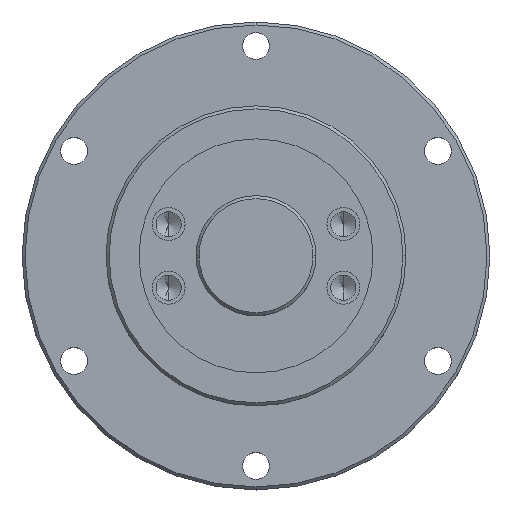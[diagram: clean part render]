
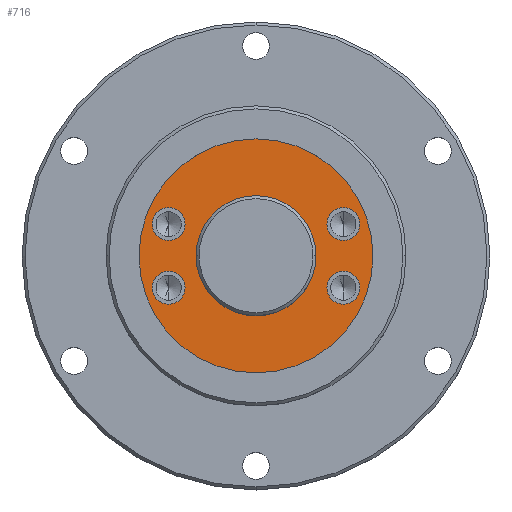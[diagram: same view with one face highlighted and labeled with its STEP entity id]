
A CAD part, top view. The second image highlights one B-rep face of the part: STEP entity #716.
In plain terms, the highlighted planar face has unit normal (0, 0, 1).
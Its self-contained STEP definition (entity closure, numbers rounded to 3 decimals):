
#10 = EDGE_CURVE ( 'NONE', #960, #2023, #419, .T. ) ;
#111 = AXIS2_PLACEMENT_3D ( 'NONE', #4348, #1868, #4781 ) ;
#159 = CARTESIAN_POINT ( 'NONE',  ( 0., 19.5, 0. ) ) ;
#166 = DIRECTION ( 'NONE',  ( 0., 0., 1. ) ) ;
#186 = VERTEX_POINT ( 'NONE', #3302 ) ;
#251 = ORIENTED_EDGE ( 'NONE', *, *, #4518, .F. ) ;
#254 = EDGE_LOOP ( 'NONE', ( #251, #1656 ) ) ;
#316 = VERTEX_POINT ( 'NONE', #1079 ) ;
#396 = DIRECTION ( 'NONE',  ( 1., 0., 0. ) ) ;
#419 = CIRCLE ( 'NONE', #1128, 2.75 ) ;
#576 = CARTESIAN_POINT ( 'NONE',  ( -14.565, 5.301, 0. ) ) ;
#716 = ADVANCED_FACE ( 'NONE', ( #3183, #3244, #3238, #3180, #3129, #3429 ), #5238, .F. ) ;
#737 = CARTESIAN_POINT ( 'NONE',  ( 14.565, 5.301, 0. ) ) ;
#941 = CIRCLE ( 'NONE', #1281, 2.75 ) ;
#960 = VERTEX_POINT ( 'NONE', #4312 ) ;
#974 = CARTESIAN_POINT ( 'NONE',  ( 0., 0., 0. ) ) ;
#1023 = DIRECTION ( 'NONE',  ( -1., 0., 0. ) ) ;
#1077 = CARTESIAN_POINT ( 'NONE',  ( 14.565, -5.301, 0. ) ) ;
#1079 = CARTESIAN_POINT ( 'NONE',  ( 0., 19.5, 0. ) ) ;
#1087 = DIRECTION ( 'NONE',  ( 0., 0., -1. ) ) ;
#1128 = AXIS2_PLACEMENT_3D ( 'NONE', #4037, #1560, #4469 ) ;
#1154 = VERTEX_POINT ( 'NONE', #1991 ) ;
#1190 = DIRECTION ( 'NONE',  ( 1., 0., 0. ) ) ;
#1237 = EDGE_LOOP ( 'NONE', ( #4699, #5436 ) ) ;
#1266 = DIRECTION ( 'NONE',  ( 0., 0., 1. ) ) ;
#1281 = AXIS2_PLACEMENT_3D ( 'NONE', #3926, #1441, #4355 ) ;
#1407 = CIRCLE ( 'NONE', #2991, 2.75 ) ;
#1409 = DIRECTION ( 'NONE',  ( 0., -1., 0. ) ) ;
#1441 = DIRECTION ( 'NONE',  ( 0., 0., 1. ) ) ;
#1504 = DIRECTION ( 'NONE',  ( -1., 0., 0. ) ) ;
#1538 = CIRCLE ( 'NONE', #111, 10. ) ;
#1543 = CARTESIAN_POINT ( 'NONE',  ( 14.565, 5.301, 0. ) ) ;
#1560 = DIRECTION ( 'NONE',  ( 0., 0., 1. ) ) ;
#1591 = AXIS2_PLACEMENT_3D ( 'NONE', #4729, #2227, #5125 ) ;
#1656 = ORIENTED_EDGE ( 'NONE', *, *, #4973, .F. ) ;
#1867 = ORIENTED_EDGE ( 'NONE', *, *, #2265, .T. ) ;
#1868 = DIRECTION ( 'NONE',  ( 0., 0., 1. ) ) ;
#1991 = CARTESIAN_POINT ( 'NONE',  ( 11.815, 5.301, 0. ) ) ;
#2023 = VERTEX_POINT ( 'NONE', #4869 ) ;
#2124 = CIRCLE ( 'NONE', #4487, 2.75 ) ;
#2180 = CARTESIAN_POINT ( 'NONE',  ( 14.565, -5.301, 0. ) ) ;
#2188 = ORIENTED_EDGE ( 'NONE', *, *, #4232, .T. ) ;
#2227 = DIRECTION ( 'NONE',  ( 0., 0., 1. ) ) ;
#2265 = EDGE_CURVE ( 'NONE', #3033, #316, #2425, .T. ) ;
#2342 = EDGE_LOOP ( 'NONE', ( #4040, #4229 ) ) ;
#2366 = EDGE_LOOP ( 'NONE', ( #4488, #4564 ) ) ;
#2425 = CIRCLE ( 'NONE', #2835, 19.5 ) ;
#2430 = CARTESIAN_POINT ( 'NONE',  ( 17.315, -5.301, 0. ) ) ;
#2492 = EDGE_LOOP ( 'NONE', ( #4253, #4367 ) ) ;
#2513 = CARTESIAN_POINT ( 'NONE',  ( -10., 0., 0. ) ) ;
#2521 = CIRCLE ( 'NONE', #3869, 2.75 ) ;
#2600 = DIRECTION ( 'NONE',  ( -1., 0., 0. ) ) ;
#2744 = VERTEX_POINT ( 'NONE', #2513 ) ;
#2752 = CARTESIAN_POINT ( 'NONE',  ( -14.565, -5.301, 0. ) ) ;
#2835 = AXIS2_PLACEMENT_3D ( 'NONE', #974, #3890, #1409 ) ;
#2838 = CARTESIAN_POINT ( 'NONE',  ( 11.815, -5.301, 0. ) ) ;
#2863 = CARTESIAN_POINT ( 'NONE',  ( 10., 0., 0. ) ) ;
#2929 = CARTESIAN_POINT ( 'NONE',  ( 0., -19.5, 0. ) ) ;
#2991 = AXIS2_PLACEMENT_3D ( 'NONE', #2752, #166, #3167 ) ;
#3033 = VERTEX_POINT ( 'NONE', #2929 ) ;
#3129 = FACE_BOUND ( 'NONE', #254, .T. ) ;
#3130 = VERTEX_POINT ( 'NONE', #3819 ) ;
#3162 = CIRCLE ( 'NONE', #3251, 2.75 ) ;
#3167 = DIRECTION ( 'NONE',  ( 1., 0., 0. ) ) ;
#3180 = FACE_BOUND ( 'NONE', #1237, .T. ) ;
#3183 = FACE_BOUND ( 'NONE', #2342, .T. ) ;
#3204 = AXIS2_PLACEMENT_3D ( 'NONE', #159, #1087, #3999 ) ;
#3233 = EDGE_CURVE ( 'NONE', #4168, #3130, #941, .T. ) ;
#3238 = FACE_BOUND ( 'NONE', #2366, .T. ) ;
#3244 = FACE_BOUND ( 'NONE', #2492, .T. ) ;
#3251 = AXIS2_PLACEMENT_3D ( 'NONE', #2180, #5077, #2600 ) ;
#3302 = CARTESIAN_POINT ( 'NONE',  ( 17.315, 5.301, 0. ) ) ;
#3343 = CIRCLE ( 'NONE', #4479, 2.75 ) ;
#3429 = FACE_OUTER_BOUND ( 'NONE', #4309, .T. ) ;
#3512 = DIRECTION ( 'NONE',  ( 0., 0., 1. ) ) ;
#3626 = VERTEX_POINT ( 'NONE', #2863 ) ;
#3660 = DIRECTION ( 'NONE',  ( 0., 0., 1. ) ) ;
#3683 = AXIS2_PLACEMENT_3D ( 'NONE', #3750, #1266, #4181 ) ;
#3750 = CARTESIAN_POINT ( 'NONE',  ( 0., 0., 0. ) ) ;
#3819 = CARTESIAN_POINT ( 'NONE',  ( -11.815, 5.301, 0. ) ) ;
#3869 = AXIS2_PLACEMENT_3D ( 'NONE', #576, #3512, #1023 ) ;
#3890 = DIRECTION ( 'NONE',  ( 0., 0., 1. ) ) ;
#3926 = CARTESIAN_POINT ( 'NONE',  ( -14.565, 5.301, 0. ) ) ;
#3985 = VERTEX_POINT ( 'NONE', #2838 ) ;
#3989 = DIRECTION ( 'NONE',  ( 0., 0., 1. ) ) ;
#3999 = DIRECTION ( 'NONE',  ( 0., 1., 0. ) ) ;
#4000 = CIRCLE ( 'NONE', #1591, 19.5 ) ;
#4037 = CARTESIAN_POINT ( 'NONE',  ( -14.565, -5.301, 0. ) ) ;
#4040 = ORIENTED_EDGE ( 'NONE', *, *, #4343, .F. ) ;
#4168 = VERTEX_POINT ( 'NONE', #5060 ) ;
#4181 = DIRECTION ( 'NONE',  ( 1., 0., 0. ) ) ;
#4229 = ORIENTED_EDGE ( 'NONE', *, *, #4546, .F. ) ;
#4232 = EDGE_CURVE ( 'NONE', #316, #3033, #4000, .T. ) ;
#4253 = ORIENTED_EDGE ( 'NONE', *, *, #4351, .F. ) ;
#4309 = EDGE_LOOP ( 'NONE', ( #1867, #2188 ) ) ;
#4312 = CARTESIAN_POINT ( 'NONE',  ( -17.315, -5.301, 0. ) ) ;
#4339 = CIRCLE ( 'NONE', #4629, 2.75 ) ;
#4343 = EDGE_CURVE ( 'NONE', #3626, #2744, #1538, .T. ) ;
#4348 = CARTESIAN_POINT ( 'NONE',  ( 0., 0., 0. ) ) ;
#4351 = EDGE_CURVE ( 'NONE', #3130, #4168, #2521, .T. ) ;
#4355 = DIRECTION ( 'NONE',  ( -1., 0., 0. ) ) ;
#4367 = ORIENTED_EDGE ( 'NONE', *, *, #3233, .F. ) ;
#4448 = EDGE_CURVE ( 'NONE', #2023, #960, #1407, .T. ) ;
#4455 = EDGE_CURVE ( 'NONE', #4953, #3985, #3343, .T. ) ;
#4456 = DIRECTION ( 'NONE',  ( 0., 0., 1. ) ) ;
#4469 = DIRECTION ( 'NONE',  ( 1., 0., 0. ) ) ;
#4479 = AXIS2_PLACEMENT_3D ( 'NONE', #1077, #3989, #1504 ) ;
#4487 = AXIS2_PLACEMENT_3D ( 'NONE', #737, #3660, #1190 ) ;
#4488 = ORIENTED_EDGE ( 'NONE', *, *, #4448, .F. ) ;
#4518 = EDGE_CURVE ( 'NONE', #186, #1154, #4339, .T. ) ;
#4546 = EDGE_CURVE ( 'NONE', #2744, #3626, #5056, .T. ) ;
#4564 = ORIENTED_EDGE ( 'NONE', *, *, #10, .F. ) ;
#4629 = AXIS2_PLACEMENT_3D ( 'NONE', #1543, #4456, #396 ) ;
#4699 = ORIENTED_EDGE ( 'NONE', *, *, #4455, .F. ) ;
#4729 = CARTESIAN_POINT ( 'NONE',  ( 0., 0., 0. ) ) ;
#4781 = DIRECTION ( 'NONE',  ( 1., 0., 0. ) ) ;
#4869 = CARTESIAN_POINT ( 'NONE',  ( -11.815, -5.301, 0. ) ) ;
#4953 = VERTEX_POINT ( 'NONE', #2430 ) ;
#4973 = EDGE_CURVE ( 'NONE', #1154, #186, #2124, .T. ) ;
#5056 = CIRCLE ( 'NONE', #3683, 10. ) ;
#5060 = CARTESIAN_POINT ( 'NONE',  ( -17.315, 5.301, 0. ) ) ;
#5077 = DIRECTION ( 'NONE',  ( 0., 0., 1. ) ) ;
#5125 = DIRECTION ( 'NONE',  ( 0., -1., 0. ) ) ;
#5238 = PLANE ( 'NONE',  #3204 ) ;
#5240 = EDGE_CURVE ( 'NONE', #3985, #4953, #3162, .T. ) ;
#5436 = ORIENTED_EDGE ( 'NONE', *, *, #5240, .F. ) ;
